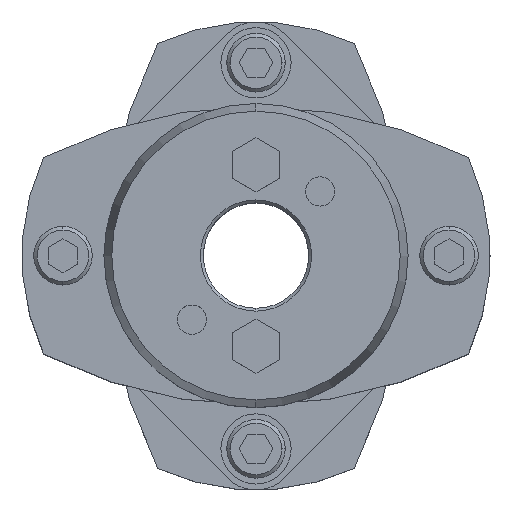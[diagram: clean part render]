
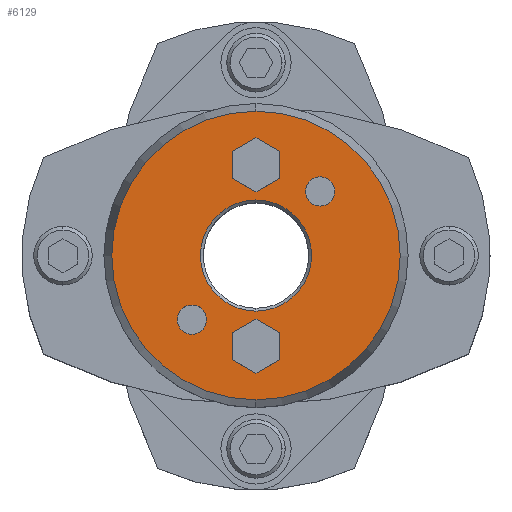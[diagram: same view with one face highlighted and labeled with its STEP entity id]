
A CAD part, top view. The second image highlights one B-rep face of the part: STEP entity #6129.
In plain terms, the highlighted planar face has unit normal (0, 0, 1).
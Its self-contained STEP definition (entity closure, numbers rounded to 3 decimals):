
#1677=CARTESIAN_POINT('',(0.,9.5,45.25));
#1678=VERTEX_POINT('',#1677);
#1694=CARTESIAN_POINT('',(0.,-9.5,45.25));
#1695=VERTEX_POINT('',#1694);
#1702=CARTESIAN_POINT('',(0.,0.,45.25));
#1703=DIRECTION('',(0.0,0.0,1.0));
#1704=DIRECTION('',(0.0,1.0,0.0));
#1705=AXIS2_PLACEMENT_3D('',#1702,#1703,#1704);
#1706=CIRCLE('',#1705,9.5);
#1707=EDGE_CURVE('',#1695,#1678,#1706,.T.);
#1865=CARTESIAN_POINT('',(0.,-24.66,45.25));
#1866=VERTEX_POINT('',#1865);
#1873=CARTESIAN_POINT('',(0.,24.66,45.25));
#1874=VERTEX_POINT('',#1873);
#1875=CARTESIAN_POINT('',(0.,0.,45.25));
#1876=DIRECTION('',(0.0,0.0,-1.0));
#1877=DIRECTION('',(0.0,-1.0,0.0));
#1878=AXIS2_PLACEMENT_3D('',#1875,#1876,#1877);
#1879=CIRCLE('',#1878,24.66);
#1880=EDGE_CURVE('',#1866,#1874,#1879,.T.);
#1975=CARTESIAN_POINT('',(10.96,13.46,45.25));
#1976=VERTEX_POINT('',#1975);
#1992=CARTESIAN_POINT('',(10.96,8.46,45.25));
#1993=VERTEX_POINT('',#1992);
#2000=CARTESIAN_POINT('',(10.96,10.96,45.25));
#2001=DIRECTION('',(0.0,0.0,-1.0));
#2002=DIRECTION('',(0.0,1.0,0.0));
#2003=AXIS2_PLACEMENT_3D('',#2000,#2001,#2002);
#2004=CIRCLE('',#2003,2.5);
#2005=EDGE_CURVE('',#1976,#1993,#2004,.T.);
#2017=CARTESIAN_POINT('',(-10.96,-8.46,45.25));
#2018=VERTEX_POINT('',#2017);
#2034=CARTESIAN_POINT('',(-10.96,-13.46,45.25));
#2035=VERTEX_POINT('',#2034);
#2042=CARTESIAN_POINT('',(-10.96,-10.96,45.25));
#2043=DIRECTION('',(0.0,0.0,-1.0));
#2044=DIRECTION('',(0.0,1.0,0.0));
#2045=AXIS2_PLACEMENT_3D('',#2042,#2043,#2044);
#2046=CIRCLE('',#2045,2.5);
#2047=EDGE_CURVE('',#2018,#2035,#2046,.T.);
#5373=CARTESIAN_POINT('',(0.,-10.881,45.25));
#5374=VERTEX_POINT('',#5373);
#5381=CARTESIAN_POINT('',(-4.,-13.191,45.25));
#5382=VERTEX_POINT('',#5381);
#5383=CARTESIAN_POINT('',(-4.,-13.191,45.25));
#5384=DIRECTION('',(0.866,0.5,0.0));
#5385=VECTOR('',#5384,4.619);
#5386=LINE('',#5383,#5385);
#5387=EDGE_CURVE('',#5382,#5374,#5386,.T.);
#5411=CARTESIAN_POINT('',(4.,-13.191,45.25));
#5412=VERTEX_POINT('',#5411);
#5419=CARTESIAN_POINT('',(0.,-10.881,45.25));
#5420=DIRECTION('',(0.866,-0.5,0.0));
#5421=VECTOR('',#5420,4.619);
#5422=LINE('',#5419,#5421);
#5423=EDGE_CURVE('',#5374,#5412,#5422,.T.);
#5442=CARTESIAN_POINT('',(4.,-17.809,45.25));
#5443=VERTEX_POINT('',#5442);
#5450=CARTESIAN_POINT('',(4.,-13.191,45.25));
#5451=DIRECTION('',(0.0,-1.0,0.0));
#5452=VECTOR('',#5451,4.619);
#5453=LINE('',#5450,#5452);
#5454=EDGE_CURVE('',#5412,#5443,#5453,.T.);
#5473=CARTESIAN_POINT('',(0.,-20.119,45.25));
#5474=VERTEX_POINT('',#5473);
#5481=CARTESIAN_POINT('',(4.,-17.809,45.25));
#5482=DIRECTION('',(-0.866,-0.5,0.0));
#5483=VECTOR('',#5482,4.619);
#5484=LINE('',#5481,#5483);
#5485=EDGE_CURVE('',#5443,#5474,#5484,.T.);
#5504=CARTESIAN_POINT('',(-4.,-17.809,45.25));
#5505=VERTEX_POINT('',#5504);
#5512=CARTESIAN_POINT('',(0.,-20.119,45.25));
#5513=DIRECTION('',(-0.866,0.5,0.0));
#5514=VECTOR('',#5513,4.619);
#5515=LINE('',#5512,#5514);
#5516=EDGE_CURVE('',#5474,#5505,#5515,.T.);
#5534=CARTESIAN_POINT('',(-4.,-17.809,45.25));
#5535=DIRECTION('',(0.0,1.0,0.0));
#5536=VECTOR('',#5535,4.619);
#5537=LINE('',#5534,#5536);
#5538=EDGE_CURVE('',#5505,#5382,#5537,.T.);
#5573=CARTESIAN_POINT('',(0.,20.119,45.25));
#5574=VERTEX_POINT('',#5573);
#5581=CARTESIAN_POINT('',(-4.,17.809,45.25));
#5582=VERTEX_POINT('',#5581);
#5583=CARTESIAN_POINT('',(-4.,17.809,45.25));
#5584=DIRECTION('',(0.866,0.5,0.0));
#5585=VECTOR('',#5584,4.619);
#5586=LINE('',#5583,#5585);
#5587=EDGE_CURVE('',#5582,#5574,#5586,.T.);
#5611=CARTESIAN_POINT('',(4.,17.809,45.25));
#5612=VERTEX_POINT('',#5611);
#5619=CARTESIAN_POINT('',(0.,20.119,45.25));
#5620=DIRECTION('',(0.866,-0.5,0.0));
#5621=VECTOR('',#5620,4.619);
#5622=LINE('',#5619,#5621);
#5623=EDGE_CURVE('',#5574,#5612,#5622,.T.);
#5642=CARTESIAN_POINT('',(4.,13.191,45.25));
#5643=VERTEX_POINT('',#5642);
#5650=CARTESIAN_POINT('',(4.,17.809,45.25));
#5651=DIRECTION('',(0.0,-1.0,0.0));
#5652=VECTOR('',#5651,4.619);
#5653=LINE('',#5650,#5652);
#5654=EDGE_CURVE('',#5612,#5643,#5653,.T.);
#5673=CARTESIAN_POINT('',(0.,10.881,45.25));
#5674=VERTEX_POINT('',#5673);
#5681=CARTESIAN_POINT('',(4.,13.191,45.25));
#5682=DIRECTION('',(-0.866,-0.5,0.0));
#5683=VECTOR('',#5682,4.619);
#5684=LINE('',#5681,#5683);
#5685=EDGE_CURVE('',#5643,#5674,#5684,.T.);
#5704=CARTESIAN_POINT('',(-4.,13.191,45.25));
#5705=VERTEX_POINT('',#5704);
#5712=CARTESIAN_POINT('',(0.,10.881,45.25));
#5713=DIRECTION('',(-0.866,0.5,0.0));
#5714=VECTOR('',#5713,4.619);
#5715=LINE('',#5712,#5714);
#5716=EDGE_CURVE('',#5674,#5705,#5715,.T.);
#5734=CARTESIAN_POINT('',(-4.,13.191,45.25));
#5735=DIRECTION('',(0.0,1.0,0.0));
#5736=VECTOR('',#5735,4.619);
#5737=LINE('',#5734,#5736);
#5738=EDGE_CURVE('',#5705,#5582,#5737,.T.);
#5764=CARTESIAN_POINT('',(-10.96,-10.96,45.25));
#5765=DIRECTION('',(0.0,0.0,-1.0));
#5766=DIRECTION('',(0.0,1.0,0.0));
#5767=AXIS2_PLACEMENT_3D('',#5764,#5765,#5766);
#5768=CIRCLE('',#5767,2.5);
#5769=EDGE_CURVE('',#2035,#2018,#5768,.T.);
#5798=CARTESIAN_POINT('',(10.96,10.96,45.25));
#5799=DIRECTION('',(0.0,0.0,-1.0));
#5800=DIRECTION('',(0.0,1.0,0.0));
#5801=AXIS2_PLACEMENT_3D('',#5798,#5799,#5800);
#5802=CIRCLE('',#5801,2.5);
#5803=EDGE_CURVE('',#1993,#1976,#5802,.T.);
#6076=CARTESIAN_POINT('',(0.,0.,45.25));
#6077=DIRECTION('',(0.0,0.0,-1.0));
#6078=DIRECTION('',(0.0,-1.0,0.0));
#6079=AXIS2_PLACEMENT_3D('',#6076,#6077,#6078);
#6080=CIRCLE('',#6079,24.66);
#6081=EDGE_CURVE('',#1874,#1866,#6080,.T.);
#6086=CARTESIAN_POINT('',(0.,2.364,45.25));
#6087=DIRECTION('',(0.0,0.0,1.0));
#6088=DIRECTION('',(0.0,1.0,0.0));
#6089=AXIS2_PLACEMENT_3D('',#6086,#6087,#6088);
#6090=PLANE('',#6089);
#6091=ORIENTED_EDGE('',*,*,#6081,.F.);
#6092=ORIENTED_EDGE('',*,*,#1880,.F.);
#6093=EDGE_LOOP('',(#6091,#6092));
#6094=FACE_OUTER_BOUND('',#6093,.T.);
#6095=ORIENTED_EDGE('',*,*,#5387,.T.);
#6096=ORIENTED_EDGE('',*,*,#5423,.T.);
#6097=ORIENTED_EDGE('',*,*,#5454,.T.);
#6098=ORIENTED_EDGE('',*,*,#5485,.T.);
#6099=ORIENTED_EDGE('',*,*,#5516,.T.);
#6100=ORIENTED_EDGE('',*,*,#5538,.T.);
#6101=EDGE_LOOP('',(#6095,#6096,#6097,#6098,#6099,#6100));
#6102=FACE_BOUND('',#6101,.T.);
#6103=ORIENTED_EDGE('',*,*,#5587,.T.);
#6104=ORIENTED_EDGE('',*,*,#5623,.T.);
#6105=ORIENTED_EDGE('',*,*,#5654,.T.);
#6106=ORIENTED_EDGE('',*,*,#5685,.T.);
#6107=ORIENTED_EDGE('',*,*,#5716,.T.);
#6108=ORIENTED_EDGE('',*,*,#5738,.T.);
#6109=EDGE_LOOP('',(#6103,#6104,#6105,#6106,#6107,#6108));
#6110=FACE_BOUND('',#6109,.T.);
#6111=ORIENTED_EDGE('',*,*,#2047,.T.);
#6112=ORIENTED_EDGE('',*,*,#5769,.T.);
#6113=EDGE_LOOP('',(#6111,#6112));
#6114=FACE_BOUND('',#6113,.T.);
#6115=ORIENTED_EDGE('',*,*,#2005,.T.);
#6116=ORIENTED_EDGE('',*,*,#5803,.T.);
#6117=EDGE_LOOP('',(#6115,#6116));
#6118=FACE_BOUND('',#6117,.T.);
#6119=ORIENTED_EDGE('',*,*,#1707,.F.);
#6120=CARTESIAN_POINT('',(0.,0.,45.25));
#6121=DIRECTION('',(0.0,0.0,1.0));
#6122=DIRECTION('',(0.0,1.0,0.0));
#6123=AXIS2_PLACEMENT_3D('',#6120,#6121,#6122);
#6124=CIRCLE('',#6123,9.5);
#6125=EDGE_CURVE('',#1678,#1695,#6124,.T.);
#6126=ORIENTED_EDGE('',*,*,#6125,.F.);
#6127=EDGE_LOOP('',(#6119,#6126));
#6128=FACE_BOUND('',#6127,.T.);
#6129=ADVANCED_FACE('',(#6094,#6102,#6110,#6114,#6118,#6128),#6090,.T.);
